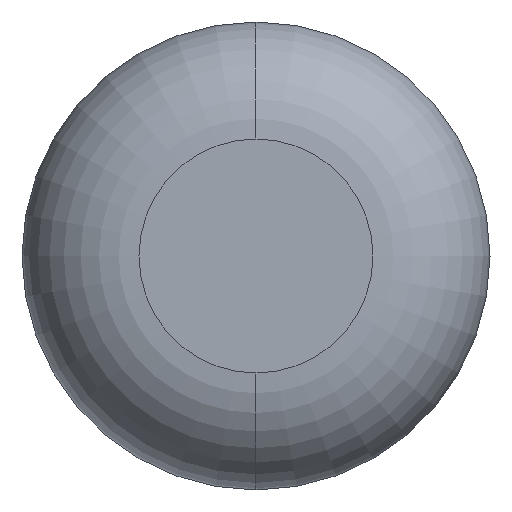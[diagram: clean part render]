
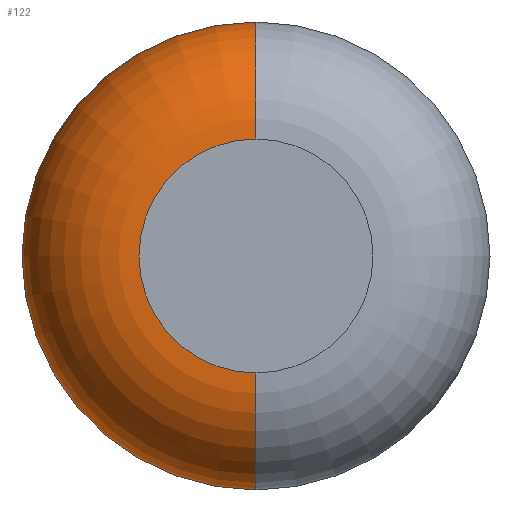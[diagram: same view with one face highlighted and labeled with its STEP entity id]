
A CAD part, left-side view. The second image highlights one B-rep face of the part: STEP entity #122.
In plain terms, the highlighted toroidal (fillet/blend) face has major radius 2 mm and minor radius 2 mm.
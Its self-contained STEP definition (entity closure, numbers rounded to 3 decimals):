
#4 = CIRCLE ( 'NONE', #7, 2. ) ;
#5 = ORIENTED_EDGE ( 'NONE', *, *, #236, .F. ) ;
#6 = ORIENTED_EDGE ( 'NONE', *, *, #14, .T. ) ;
#7 = AXIS2_PLACEMENT_3D ( 'NONE', #204, #22, #137 ) ;
#12 = DIRECTION ( 'NONE',  ( 0., 0., -1. ) ) ;
#14 = EDGE_CURVE ( 'NONE', #93, #176, #111, .T. ) ;
#19 = VERTEX_POINT ( 'NONE', #50 ) ;
#20 = TOROIDAL_SURFACE ( 'NONE', #45, 2., 2. ) ;
#22 = DIRECTION ( 'NONE',  ( 0., -1., 0. ) ) ;
#32 = ORIENTED_EDGE ( 'NONE', *, *, #193, .F. ) ;
#36 = CIRCLE ( 'NONE', #38, 2. ) ;
#38 = AXIS2_PLACEMENT_3D ( 'NONE', #184, #70, #199 ) ;
#45 = AXIS2_PLACEMENT_3D ( 'NONE', #216, #167, #105 ) ;
#50 = CARTESIAN_POINT ( 'NONE',  ( 0., 0., -2. ) ) ;
#53 = EDGE_CURVE ( 'NONE', #19, #83, #4, .T. ) ;
#70 = DIRECTION ( 'NONE',  ( -1., 0., 0. ) ) ;
#73 = DIRECTION ( 'NONE',  ( 0., 0., 1. ) ) ;
#83 = VERTEX_POINT ( 'NONE', #195 ) ;
#89 = EDGE_LOOP ( 'NONE', ( #5, #6, #32, #100 ) ) ;
#93 = VERTEX_POINT ( 'NONE', #166 ) ;
#100 = ORIENTED_EDGE ( 'NONE', *, *, #53, .F. ) ;
#104 = AXIS2_PLACEMENT_3D ( 'NONE', #235, #126, #12 ) ;
#105 = DIRECTION ( 'NONE',  ( 0., 0., -1. ) ) ;
#111 = CIRCLE ( 'NONE', #183, 2. ) ;
#122 = ADVANCED_FACE ( 'NONE', ( #159 ), #20, .T. ) ;
#126 = DIRECTION ( 'NONE',  ( 1., 0., 0. ) ) ;
#128 = DIRECTION ( 'NONE',  ( 0., 1., 0. ) ) ;
#137 = DIRECTION ( 'NONE',  ( 0., 0., -1. ) ) ;
#157 = CARTESIAN_POINT ( 'NONE',  ( 2., 0., 4. ) ) ;
#159 = FACE_OUTER_BOUND ( 'NONE', #89, .T. ) ;
#166 = CARTESIAN_POINT ( 'NONE',  ( 0., 0., 2. ) ) ;
#167 = DIRECTION ( 'NONE',  ( 1., 0., 0. ) ) ;
#176 = VERTEX_POINT ( 'NONE', #157 ) ;
#183 = AXIS2_PLACEMENT_3D ( 'NONE', #242, #128, #73 ) ;
#184 = CARTESIAN_POINT ( 'NONE',  ( 0., 0., 0. ) ) ;
#193 = EDGE_CURVE ( 'NONE', #83, #176, #201, .T. ) ;
#195 = CARTESIAN_POINT ( 'NONE',  ( 2., 0., -4. ) ) ;
#199 = DIRECTION ( 'NONE',  ( 0., 0., -1. ) ) ;
#201 = CIRCLE ( 'NONE', #104, 4. ) ;
#204 = CARTESIAN_POINT ( 'NONE',  ( 2., 0., -2. ) ) ;
#216 = CARTESIAN_POINT ( 'NONE',  ( 2., 0., 0. ) ) ;
#235 = CARTESIAN_POINT ( 'NONE',  ( 2., 0., 0. ) ) ;
#236 = EDGE_CURVE ( 'NONE', #93, #19, #36, .T. ) ;
#242 = CARTESIAN_POINT ( 'NONE',  ( 2., 0., 2. ) ) ;
